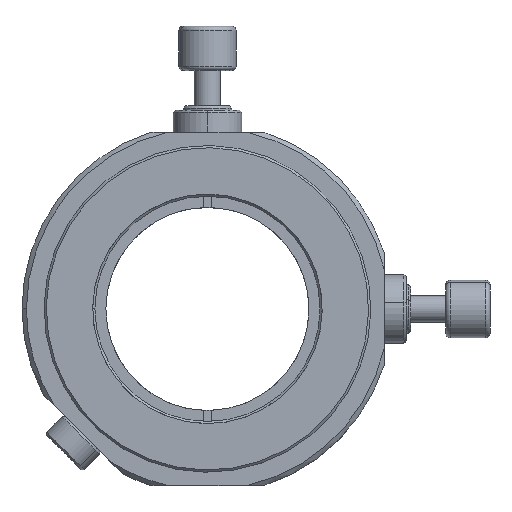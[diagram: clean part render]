
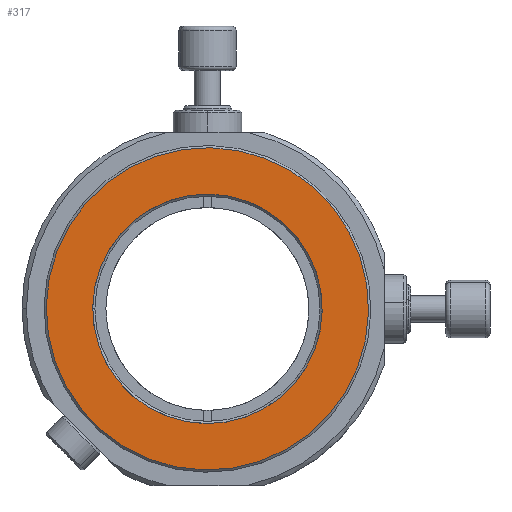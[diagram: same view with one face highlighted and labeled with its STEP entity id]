
A CAD part, top view. The second image highlights one B-rep face of the part: STEP entity #317.
In plain terms, the highlighted planar face has unit normal (0, 0, 1).
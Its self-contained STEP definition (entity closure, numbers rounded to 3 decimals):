
#85 = EDGE_LOOP ( 'NONE', ( #1589, #3570 ) ) ;
#223 = PLANE ( 'NONE',  #3543 ) ;
#283 = DIRECTION ( 'NONE',  ( -0.483, 0.876, 0. ) ) ;
#317 = ADVANCED_FACE ( 'NONE', ( #1015, #6242 ), #223, .F. ) ;
#323 = DIRECTION ( 'NONE',  ( -0.483, 0.876, 0. ) ) ;
#330 = EDGE_CURVE ( 'NONE', #6958, #1546, #5048, .T. ) ;
#391 = EDGE_CURVE ( 'NONE', #1670, #3802, #4898, .T. ) ;
#582 = CARTESIAN_POINT ( 'NONE',  ( -11.125, 22.563, 26. ) ) ;
#805 = DIRECTION ( 'NONE',  ( 0., 0., -1. ) ) ;
#1015 = FACE_OUTER_BOUND ( 'NONE', #85, .T. ) ;
#1546 = VERTEX_POINT ( 'NONE', #3869 ) ;
#1589 = ORIENTED_EDGE ( 'NONE', *, *, #6700, .T. ) ;
#1670 = VERTEX_POINT ( 'NONE', #582 ) ;
#2039 = CARTESIAN_POINT ( 'NONE',  ( 1.422, -0.209, 26. ) ) ;
#2200 = AXIS2_PLACEMENT_3D ( 'NONE', #2039, #805, #6507 ) ;
#2345 = CIRCLE ( 'NONE', #2200, 26. ) ;
#2588 = CARTESIAN_POINT ( 'NONE',  ( 1.422, -0.209, 26. ) ) ;
#2874 = CIRCLE ( 'NONE', #4750, 36.5 ) ;
#3064 = DIRECTION ( 'NONE',  ( -0.483, 0.876, 0. ) ) ;
#3543 = AXIS2_PLACEMENT_3D ( 'NONE', #5377, #4241, #3064 ) ;
#3570 = ORIENTED_EDGE ( 'NONE', *, *, #330, .T. ) ;
#3655 = DIRECTION ( 'NONE',  ( -0.483, 0.876, 0. ) ) ;
#3802 = VERTEX_POINT ( 'NONE', #4104 ) ;
#3869 = CARTESIAN_POINT ( 'NONE',  ( -16.192, 31.759, 26. ) ) ;
#4104 = CARTESIAN_POINT ( 'NONE',  ( 13.968, -22.982, 26. ) ) ;
#4241 = DIRECTION ( 'NONE',  ( 0., 0., -1. ) ) ;
#4750 = AXIS2_PLACEMENT_3D ( 'NONE', #2588, #4895, #283 ) ;
#4803 = CARTESIAN_POINT ( 'NONE',  ( 1.422, -0.209, 26. ) ) ;
#4831 = DIRECTION ( 'NONE',  ( 0., 0., 1. ) ) ;
#4895 = DIRECTION ( 'NONE',  ( 0., 0., 1. ) ) ;
#4898 = CIRCLE ( 'NONE', #5193, 26. ) ;
#5048 = CIRCLE ( 'NONE', #6621, 36.5 ) ;
#5193 = AXIS2_PLACEMENT_3D ( 'NONE', #5305, #7022, #3655 ) ;
#5249 = EDGE_CURVE ( 'NONE', #3802, #1670, #2345, .T. ) ;
#5305 = CARTESIAN_POINT ( 'NONE',  ( 1.422, -0.209, 26. ) ) ;
#5377 = CARTESIAN_POINT ( 'NONE',  ( 1.422, -0.209, 26. ) ) ;
#5563 = ORIENTED_EDGE ( 'NONE', *, *, #5249, .T. ) ;
#5664 = CARTESIAN_POINT ( 'NONE',  ( 19.035, -32.178, 26. ) ) ;
#6181 = ORIENTED_EDGE ( 'NONE', *, *, #391, .T. ) ;
#6242 = FACE_BOUND ( 'NONE', #6972, .T. ) ;
#6507 = DIRECTION ( 'NONE',  ( -0.483, 0.876, 0. ) ) ;
#6621 = AXIS2_PLACEMENT_3D ( 'NONE', #4803, #4831, #323 ) ;
#6700 = EDGE_CURVE ( 'NONE', #1546, #6958, #2874, .T. ) ;
#6958 = VERTEX_POINT ( 'NONE', #5664 ) ;
#6972 = EDGE_LOOP ( 'NONE', ( #6181, #5563 ) ) ;
#7022 = DIRECTION ( 'NONE',  ( 0., 0., -1. ) ) ;
